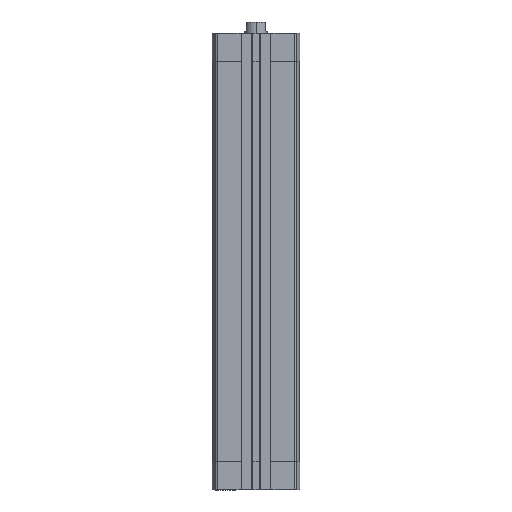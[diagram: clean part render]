
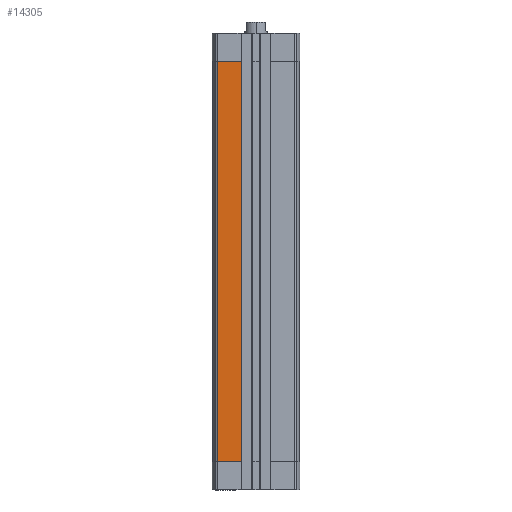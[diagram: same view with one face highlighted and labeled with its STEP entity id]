
A CAD part, left-side view. The second image highlights one B-rep face of the part: STEP entity #14305.
In plain terms, the highlighted planar face has unit normal (-1, 0, 0).
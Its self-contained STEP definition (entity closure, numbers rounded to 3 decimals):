
#817 = CARTESIAN_POINT ( 'NONE',  ( -23.25, 20.543, -15. ) ) ;
#842 = ORIENTED_EDGE ( 'NONE', *, *, #9417, .T. ) ;
#1142 = AXIS2_PLACEMENT_3D ( 'NONE', #8723, #2687, #11140 ) ;
#1464 = PLANE ( 'NONE',  #1142 ) ;
#1679 = CARTESIAN_POINT ( 'NONE',  ( -23.25, 20.543, -229. ) ) ;
#2417 = EDGE_LOOP ( 'NONE', ( #842, #4871, #8561, #14768 ) ) ;
#2687 = DIRECTION ( 'NONE',  ( -1., 0., 0. ) ) ;
#2841 = VECTOR ( 'NONE', #13751, 1000. ) ;
#2898 = CARTESIAN_POINT ( 'NONE',  ( -23.25, 0., -15. ) ) ;
#2948 = LINE ( 'NONE', #13954, #12184 ) ;
#4285 = VERTEX_POINT ( 'NONE', #1679 ) ;
#4861 = EDGE_CURVE ( 'NONE', #14001, #4285, #2948, .T. ) ;
#4871 = ORIENTED_EDGE ( 'NONE', *, *, #9337, .F. ) ;
#4987 = EDGE_CURVE ( 'NONE', #7114, #14001, #14589, .T. ) ;
#5192 = CARTESIAN_POINT ( 'NONE',  ( -23.25, 7.95, -229. ) ) ;
#6409 = VERTEX_POINT ( 'NONE', #8889 ) ;
#6591 = CARTESIAN_POINT ( 'NONE',  ( -23.25, 7.95, -15. ) ) ;
#7114 = VERTEX_POINT ( 'NONE', #6591 ) ;
#7785 = CARTESIAN_POINT ( 'NONE',  ( -23.25, 20.543, -229. ) ) ;
#8561 = ORIENTED_EDGE ( 'NONE', *, *, #4987, .T. ) ;
#8723 = CARTESIAN_POINT ( 'NONE',  ( -23.25, 20.543, -229. ) ) ;
#8889 = CARTESIAN_POINT ( 'NONE',  ( -23.25, 7.95, -229. ) ) ;
#9337 = EDGE_CURVE ( 'NONE', #7114, #6409, #13568, .T. ) ;
#9417 = EDGE_CURVE ( 'NONE', #4285, #6409, #12085, .T. ) ;
#10041 = VECTOR ( 'NONE', #14789, 1000. ) ;
#10140 = DIRECTION ( 'NONE',  ( 0., 1., 0. ) ) ;
#11140 = DIRECTION ( 'NONE',  ( 0., 0., 1. ) ) ;
#12085 = LINE ( 'NONE', #7785, #2841 ) ;
#12184 = VECTOR ( 'NONE', #12769, 1000. ) ;
#12769 = DIRECTION ( 'NONE',  ( 0., 0., -1. ) ) ;
#13568 = LINE ( 'NONE', #5192, #10041 ) ;
#13751 = DIRECTION ( 'NONE',  ( 0., -1., 0. ) ) ;
#13954 = CARTESIAN_POINT ( 'NONE',  ( -23.25, 20.543, -229. ) ) ;
#14001 = VERTEX_POINT ( 'NONE', #817 ) ;
#14226 = VECTOR ( 'NONE', #10140, 1000. ) ;
#14230 = FACE_OUTER_BOUND ( 'NONE', #2417, .T. ) ;
#14305 = ADVANCED_FACE ( 'NONE', ( #14230 ), #1464, .T. ) ;
#14589 = LINE ( 'NONE', #2898, #14226 ) ;
#14768 = ORIENTED_EDGE ( 'NONE', *, *, #4861, .T. ) ;
#14789 = DIRECTION ( 'NONE',  ( 0., 0., -1. ) ) ;
